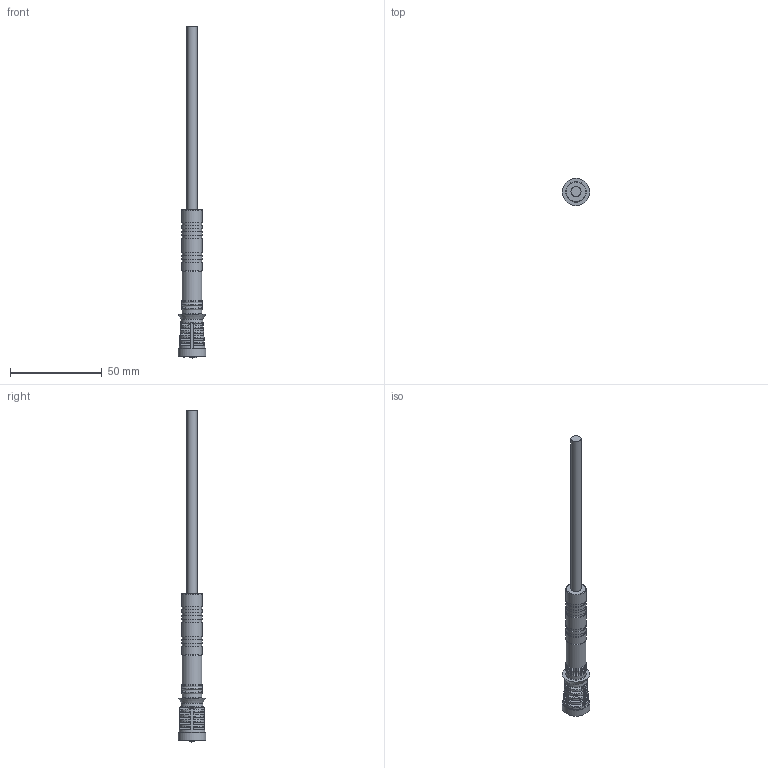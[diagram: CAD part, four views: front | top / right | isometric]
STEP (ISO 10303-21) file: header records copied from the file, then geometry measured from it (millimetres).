
FILE_DESCRIPTION(/* description */ (''),/* implementation_level */ '2;1');
FILE_NAME(/* name */ 'MEMS2.stp',/* time_stamp */ '2026-07-13T09:10:43+03:00',/* author */ ('USER'),/* organization */ (''),/* preprocessor_version */ 'ST-DEVELOPER v20',/* originating_system */ 'Autodesk Inventor 2025',/* authorisation */ '');
FILE_SCHEMA (('AUTOMOTIVE_DESIGN { 1 0 10303 214 3 1 1 }'));
Length unit declared in the file: millimetre
Products named in the file (12): MEMS2; MEMS microphone assembly; MEMS I2S I; INMP441 MEMS I2S MICROPHONE PCB; MSM261S4030; MSM261S4030_1; MSM261S4030_cover; Resistor 0402; C0402-T50-X7R; 2.1 x 5.5 Female Overmould; Jack 6.3; 2.1 x 5.5 Female insert
Assembly tree (11 placements, depth 5):
  MEMS2
    MEMS microphone assembly
      MEMS I2S I
        INMP441 MEMS I2S MICROPHONE PCB
        MSM261S4030
          MSM261S4030_1
          MSM261S4030_cover
        Resistor 0402
        C0402-T50-X7R
    2.1 x 5.5 Female Overmould
    Jack 6.3
    2.1 x 5.5 Female insert
Bounding box: 15 x 15 x 180.77 mm (x, y, z)
Volume: 10539.6 mm3; surface area: 9125.3 mm2
Topology: 41 solids, 41 shells, 817 faces, 1993 edges, 1287 vertices
Faces by surface type: plane 377, bspline 219, cylinder 149, torus 59, sphere 8, cone 5
Full cylindrical faces by diameter (mm): 1 x18, 1.2 x2, 1.5 x13, 5.5 x2, 6.1 x2, 6.3 x1, 6.4 x1, 6.41 x1, 6.5 x1, 8.3 x1, 9 x1, 9.5 x1, 10.5 x5, 10.75 x8, 11 x6, 14 x1, 15 x1
Entity records: 30589 total; most frequent: CARTESIAN_POINT 11581, ORIENTED_EDGE 3970, DIRECTION 3211, EDGE_CURVE 1985, VERTEX_POINT 1287, AXIS2_PLACEMENT_3D 1104, LINE 1003, VECTOR 1003
